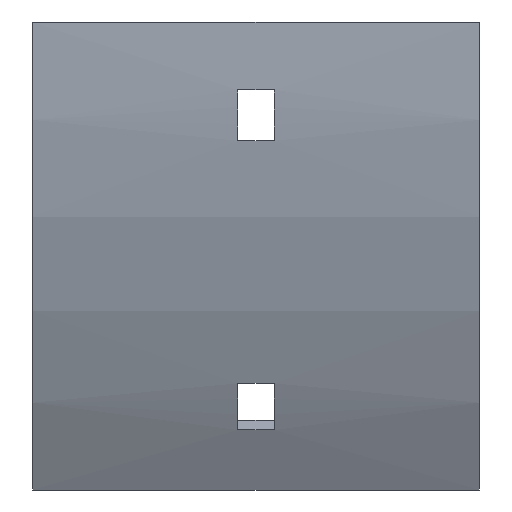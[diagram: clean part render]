
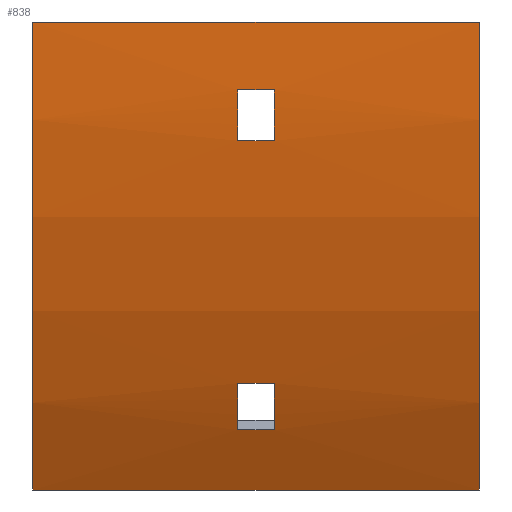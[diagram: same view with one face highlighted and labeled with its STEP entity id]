
A CAD part, front view. The second image highlights one B-rep face of the part: STEP entity #838.
In plain terms, the highlighted cylindrical face has radius 165.5 mm (diameter 331 mm), a partial arc.
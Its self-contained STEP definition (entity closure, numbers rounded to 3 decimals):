
#1 = CARTESIAN_POINT ( 'NONE',  ( 3.25, -52.669, -63.895 ) ) ;
#10 = ORIENTED_EDGE ( 'NONE', *, *, #850, .T. ) ;
#23 = VERTEX_POINT ( 'NONE', #1 ) ;
#24 = DIRECTION ( 'NONE',  ( 1., 0., 0. ) ) ;
#28 = VERTEX_POINT ( 'NONE', #373 ) ;
#31 = LINE ( 'NONE', #719, #686 ) ;
#78 = AXIS2_PLACEMENT_3D ( 'NONE', #702, #611, #966 ) ;
#92 = DIRECTION ( 'NONE',  ( -1., 0., 0. ) ) ;
#111 = LINE ( 'NONE', #1075, #665 ) ;
#115 = ORIENTED_EDGE ( 'NONE', *, *, #630, .F. ) ;
#130 = EDGE_CURVE ( 'NONE', #210, #595, #252, .T. ) ;
#137 = EDGE_LOOP ( 'NONE', ( #10, #883, #290, #273 ) ) ;
#139 = CARTESIAN_POINT ( 'NONE',  ( 39.5, -52.669, -63.895 ) ) ;
#157 = DIRECTION ( 'NONE',  ( 1., 0., 0. ) ) ;
#158 = VERTEX_POINT ( 'NONE', #421 ) ;
#165 = CIRCLE ( 'NONE', #846, 165.5 ) ;
#181 = DIRECTION ( 'NONE',  ( 0., 0., -1. ) ) ;
#187 = EDGE_CURVE ( 'NONE', #23, #210, #724, .T. ) ;
#188 = CARTESIAN_POINT ( 'NONE',  ( 39.5, -64.162, -21. ) ) ;
#210 = VERTEX_POINT ( 'NONE', #828 ) ;
#219 = CARTESIAN_POINT ( 'NONE',  ( 3.25, 100., 0. ) ) ;
#252 = CIRCLE ( 'NONE', #571, 165.5 ) ;
#258 = FACE_BOUND ( 'NONE', #432, .T. ) ;
#273 = ORIENTED_EDGE ( 'NONE', *, *, #968, .T. ) ;
#277 = CARTESIAN_POINT ( 'NONE',  ( -39.5, 100., 0. ) ) ;
#285 = DIRECTION ( 'NONE',  ( -1., 0., 0. ) ) ;
#287 = VERTEX_POINT ( 'NONE', #789 ) ;
#290 = ORIENTED_EDGE ( 'NONE', *, *, #711, .T. ) ;
#297 = VECTOR ( 'NONE', #682, 1000. ) ;
#317 = DIRECTION ( 'NONE',  ( 0., 0., -1. ) ) ;
#319 = ORIENTED_EDGE ( 'NONE', *, *, #984, .F. ) ;
#324 = AXIS2_PLACEMENT_3D ( 'NONE', #219, #560, #1105 ) ;
#335 = CARTESIAN_POINT ( 'NONE',  ( 39.5, -65.5, 0. ) ) ;
#344 = CARTESIAN_POINT ( 'NONE',  ( 39.5, -48.95, -72.14 ) ) ;
#350 = DIRECTION ( 'NONE',  ( 0., 0., -1. ) ) ;
#358 = DIRECTION ( 'NONE',  ( -1., 0., 0. ) ) ;
#359 = CYLINDRICAL_SURFACE ( 'NONE', #78, 165.5 ) ;
#366 = DIRECTION ( 'NONE',  ( -1., 0., 0. ) ) ;
#371 = EDGE_CURVE ( 'NONE', #158, #23, #602, .T. ) ;
#373 = CARTESIAN_POINT ( 'NONE',  ( 39.5, -65.5, 0. ) ) ;
#421 = CARTESIAN_POINT ( 'NONE',  ( 3.25, -48.95, -72.14 ) ) ;
#422 = VECTOR ( 'NONE', #690, 1000. ) ;
#432 = EDGE_LOOP ( 'NONE', ( #1033, #718, #1103, #760 ) ) ;
#469 = AXIS2_PLACEMENT_3D ( 'NONE', #1144, #547, #350 ) ;
#473 = CARTESIAN_POINT ( 'NONE',  ( 39.5, -43.327, -82.75 ) ) ;
#501 = VERTEX_POINT ( 'NONE', #578 ) ;
#519 = VECTOR ( 'NONE', #943, 1000. ) ;
#532 = LINE ( 'NONE', #188, #715 ) ;
#547 = DIRECTION ( 'NONE',  ( 1., 0., 0. ) ) ;
#550 = CARTESIAN_POINT ( 'NONE',  ( -3.25, 100., 0. ) ) ;
#557 = VERTEX_POINT ( 'NONE', #878 ) ;
#560 = DIRECTION ( 'NONE',  ( 1., 0., 0. ) ) ;
#571 = AXIS2_PLACEMENT_3D ( 'NONE', #1046, #157, #317 ) ;
#578 = CARTESIAN_POINT ( 'NONE',  ( 3.25, -64.162, -21. ) ) ;
#595 = VERTEX_POINT ( 'NONE', #976 ) ;
#602 = CIRCLE ( 'NONE', #653, 165.5 ) ;
#611 = DIRECTION ( 'NONE',  ( -1., 0., 0. ) ) ;
#630 = EDGE_CURVE ( 'NONE', #28, #699, #807, .T. ) ;
#653 = AXIS2_PLACEMENT_3D ( 'NONE', #879, #358, #697 ) ;
#654 = ORIENTED_EDGE ( 'NONE', *, *, #655, .T. ) ;
#655 = EDGE_CURVE ( 'NONE', #28, #557, #786, .T. ) ;
#665 = VECTOR ( 'NONE', #24, 1000. ) ;
#666 = CARTESIAN_POINT ( 'NONE',  ( -3.25, -64.162, -21. ) ) ;
#673 = ORIENTED_EDGE ( 'NONE', *, *, #772, .T. ) ;
#682 = DIRECTION ( 'NONE',  ( -1., 0., 0. ) ) ;
#686 = VECTOR ( 'NONE', #285, 1000. ) ;
#690 = DIRECTION ( 'NONE',  ( 1., 0., 0. ) ) ;
#697 = DIRECTION ( 'NONE',  ( 0., 0., 1. ) ) ;
#699 = VERTEX_POINT ( 'NONE', #473 ) ;
#702 = CARTESIAN_POINT ( 'NONE',  ( 39.5, 100., 0. ) ) ;
#708 = DIRECTION ( 'NONE',  ( 0., 0., 1. ) ) ;
#711 = EDGE_CURVE ( 'NONE', #287, #1092, #111, .T. ) ;
#715 = VECTOR ( 'NONE', #366, 1000. ) ;
#717 = VERTEX_POINT ( 'NONE', #727 ) ;
#718 = ORIENTED_EDGE ( 'NONE', *, *, #187, .F. ) ;
#719 = CARTESIAN_POINT ( 'NONE',  ( 39.5, -43.327, -82.75 ) ) ;
#724 = LINE ( 'NONE', #139, #519 ) ;
#727 = CARTESIAN_POINT ( 'NONE',  ( -39.5, -43.327, -82.75 ) ) ;
#760 = ORIENTED_EDGE ( 'NONE', *, *, #835, .F. ) ;
#769 = LINE ( 'NONE', #344, #422 ) ;
#772 = EDGE_CURVE ( 'NONE', #557, #717, #165, .T. ) ;
#775 = EDGE_CURVE ( 'NONE', #1116, #287, #865, .T. ) ;
#786 = LINE ( 'NONE', #335, #297 ) ;
#789 = CARTESIAN_POINT ( 'NONE',  ( -3.25, -65.064, -12. ) ) ;
#807 = CIRCLE ( 'NONE', #469, 165.5 ) ;
#826 = EDGE_LOOP ( 'NONE', ( #673, #319, #115, #654 ) ) ;
#828 = CARTESIAN_POINT ( 'NONE',  ( -3.25, -52.669, -63.895 ) ) ;
#835 = EDGE_CURVE ( 'NONE', #595, #158, #769, .T. ) ;
#838 = ADVANCED_FACE ( 'NONE', ( #1151, #1060, #258 ), #359, .T. ) ;
#846 = AXIS2_PLACEMENT_3D ( 'NONE', #277, #985, #181 ) ;
#850 = EDGE_CURVE ( 'NONE', #501, #1116, #532, .T. ) ;
#865 = CIRCLE ( 'NONE', #1054, 165.5 ) ;
#878 = CARTESIAN_POINT ( 'NONE',  ( -39.5, -65.5, 0. ) ) ;
#879 = CARTESIAN_POINT ( 'NONE',  ( 3.25, 100., 0. ) ) ;
#883 = ORIENTED_EDGE ( 'NONE', *, *, #775, .T. ) ;
#939 = CARTESIAN_POINT ( 'NONE',  ( 3.25, -65.064, -12. ) ) ;
#943 = DIRECTION ( 'NONE',  ( -1., 0., 0. ) ) ;
#966 = DIRECTION ( 'NONE',  ( 0., 0., 1. ) ) ;
#968 = EDGE_CURVE ( 'NONE', #1092, #501, #1111, .T. ) ;
#976 = CARTESIAN_POINT ( 'NONE',  ( -3.25, -48.95, -72.14 ) ) ;
#984 = EDGE_CURVE ( 'NONE', #699, #717, #31, .T. ) ;
#985 = DIRECTION ( 'NONE',  ( 1., 0., 0. ) ) ;
#1033 = ORIENTED_EDGE ( 'NONE', *, *, #130, .F. ) ;
#1046 = CARTESIAN_POINT ( 'NONE',  ( -3.25, 100., 0. ) ) ;
#1054 = AXIS2_PLACEMENT_3D ( 'NONE', #550, #92, #708 ) ;
#1060 = FACE_BOUND ( 'NONE', #137, .T. ) ;
#1075 = CARTESIAN_POINT ( 'NONE',  ( 39.5, -65.064, -12. ) ) ;
#1092 = VERTEX_POINT ( 'NONE', #939 ) ;
#1103 = ORIENTED_EDGE ( 'NONE', *, *, #371, .F. ) ;
#1105 = DIRECTION ( 'NONE',  ( 0., 0., -1. ) ) ;
#1111 = CIRCLE ( 'NONE', #324, 165.5 ) ;
#1116 = VERTEX_POINT ( 'NONE', #666 ) ;
#1144 = CARTESIAN_POINT ( 'NONE',  ( 39.5, 100., 0. ) ) ;
#1151 = FACE_OUTER_BOUND ( 'NONE', #826, .T. ) ;
